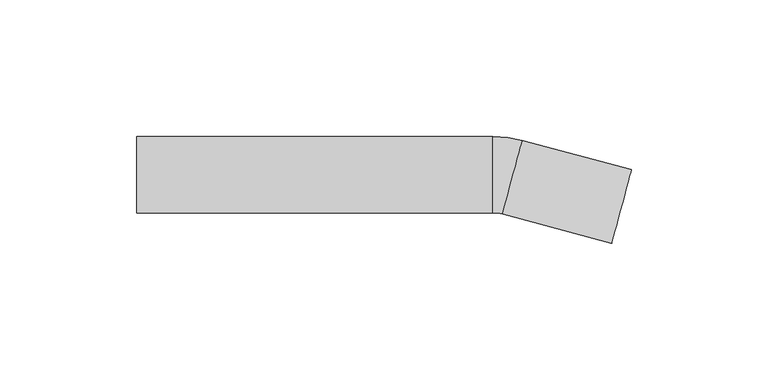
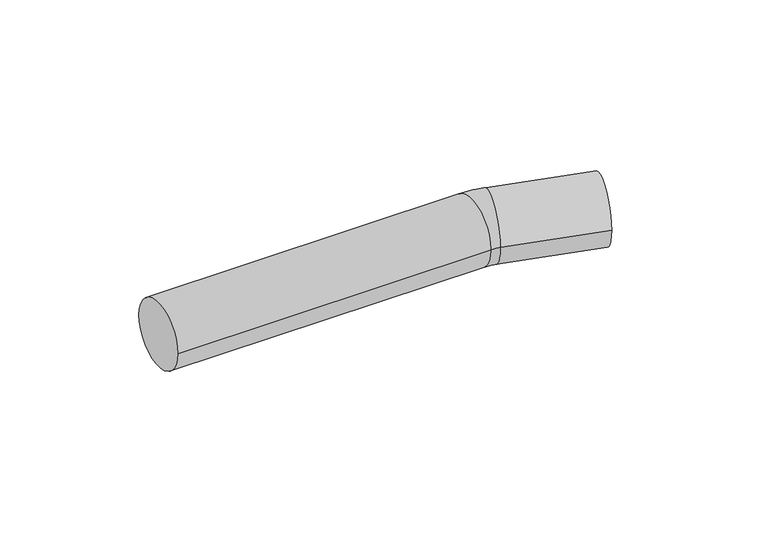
"""IFC4 building model written with IfcOpenShell, lengths in millimetres: pipe fitting geometry, KAN-therm Inox łuk 15 : KAN-therm Inox łuk 15."""

from ifc_helpers import new_model, si_unit, point, frame, origin, place, context, project, spatial, circle_curve, ellipse_curve, trimmed, source, transform, mapped, element, save
from ifc_brep_helpers import plane_surface, cylinder_surface, revolved_surface, advanced_brep


def pipe_fitting_2177f3ef(model_context):
    return source(origin(), model_context, "Body", "AdvancedBrep", [
        advanced_brep(
        [(181.0901288, 1.8761045, 0.0), (173.8431956, -25.1698186, 0.0), (141.18413, 12.5688847, 0.0), (133.9371967, -14.4770384, 0.0), (130.3137301, -14.0, 0.0), (130.3137301, 14.0, 0.0), (0.0, 14.0, 0.0), (0.0, -14.0, 0.0)],
        [
            (0, 1, circle_curve(frame((177.4666622, -11.646857, 0.0), z_axis=(0.9659258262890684, -0.25881904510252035, 0.0), x_axis=(-0.25881904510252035, -0.9659258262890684, 0.0)), 14.0)),
            (1, 0, circle_curve(frame((177.4666622, -11.646857, 0.0), z_axis=(0.9659258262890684, -0.25881904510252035, 0.0), x_axis=(-0.25881904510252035, -0.9659258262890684, 0.0)), 14.0)),
            (0, 2),
            (2, 3, circle_curve(frame((137.5606633, -0.9540769, 0.0), z_axis=(0.9659258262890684, -0.25881904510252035, 0.0), x_axis=(-0.25881904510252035, -0.9659258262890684, 0.0)), 14.0)),
            (3, 1),
            (3, 2, circle_curve(frame((137.5606633, -0.9540769, 0.0), z_axis=(0.9659258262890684, -0.25881904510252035, 0.0), x_axis=(-0.25881904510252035, -0.9659258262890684, 0.0)), 14.0)),
            (4, 3, circle_curve(frame((130.3137301, -28.0, 0.0), z_axis=(0.0, 0.0, -1.0), x_axis=(0.2588190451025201, 0.9659258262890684, 0.0)), 14.0)),
            (2, 5, circle_curve(frame((130.3137301, -28.0, 0.0), z_axis=(0.0, 0.0, 1.0), x_axis=(0.2588190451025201, 0.9659258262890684, 0.0)), 42.0)),
            (5, 4, circle_curve(frame((130.3137301, 0.0, 0.0), z_axis=(1.0, 0.0, 0.0), x_axis=(0.0, -1.0, 0.0)), 14.0)),
            (4, 5, circle_curve(frame((130.3137301, 0.0, 0.0), z_axis=(1.0, 0.0, 0.0), x_axis=(0.0, -1.0, 0.0)), 14.0)),
            (6, 7, circle_curve(frame((0.0, 0.0, 0.0), z_axis=(-1.0, 0.0, 0.0), x_axis=(0.0, -1.0, 0.0)), 14.0)),
            (7, 6, circle_curve(frame((0.0, 0.0, 0.0), z_axis=(-1.0, 0.0, 0.0), x_axis=(0.0, -1.0, 0.0)), 14.0)),
            (5, 6),
            (7, 4),
        ],
        [
            plane_surface(frame((177.4666622, -11.646857, 0.0), z_axis=(0.9659258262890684, -0.25881904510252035, 0.0), x_axis=(0.0, 0.0, 1.0))),
            cylinder_surface(frame((177.4666622, -11.646857, 0.0), z_axis=(0.9659258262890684, -0.25881904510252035, 0.0), x_axis=(-0.25881904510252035, -0.9659258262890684, 0.0)), 14.0),
            revolved_surface(trimmed(ellipse_curve(frame((137.5606633, -0.9540769, 0.0), z_axis=(0.9659258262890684, -0.2588190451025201, 0.0), x_axis=(-0.2588190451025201, -0.9659258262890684, 0.0)), 14.0, 14.0), [point((141.18413, 12.5688847, 0.0))], [point((133.9371967, -14.4770384, 0.0))], True, "CARTESIAN"), (130.3137301, -28.0, 0.0), (0.0, 0.0, 1.0)),
            revolved_surface(trimmed(ellipse_curve(frame((137.5606633, -0.9540769, 0.0), z_axis=(0.9659258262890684, -0.2588190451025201, 0.0), x_axis=(-0.2588190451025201, -0.9659258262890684, 0.0)), 14.0, 14.0), [point((133.9371967, -14.4770384, 0.0))], [point((141.18413, 12.5688847, 0.0))], True, "CARTESIAN"), (130.3137301, -28.0, 0.0), (0.0, 0.0, 1.0)),
            plane_surface(frame((0.0, 0.0, 0.0), z_axis=(-1.0, 0.0, 0.0), x_axis=(0.0, 0.0, 1.0))),
            cylinder_surface(frame((130.3137301, 0.0, 0.0), z_axis=(1.0, 0.0, 0.0), x_axis=(0.0, -1.0, 0.0)), 14.0),
        ],
        [
            (0, [[1, 2]]),
            (1, [[-1, 3, 4, 5]]),
            (1, [[-2, -5, 6, -3]]),
            (2, [[7, -4, 8, 9]]),
            (3, [[-8, -6, -7, 10]]),
            (4, [[11, 12]]),
            (5, [[-9, 13, -12, 14]]),
            (5, [[-10, -14, -11, -13]]),
        ],
    ),
    ])


if __name__ == "__main__":
    model = new_model("IFC4")
    model_context = context("Model", 3, world=origin())
    ifc_project = project(units=[si_unit("LENGTHUNIT", "METRE", prefix="MILLI")], contexts=[model_context])
    site = spatial("IfcSite", under=ifc_project)
    building = spatial("IfcBuilding", under=site)
    placement = place(None, origin())
    pipe_fitting_shape = pipe_fitting_2177f3ef(model_context)
    element("IfcPipeFitting", 1, ObjectType="KAN-therm Inox łuk 15 : KAN-therm Inox łuk 15", at=placement, inside=building, context=model_context, shape_type="MappedRepresentation", body=[
        mapped(pipe_fitting_shape, transform((0.0, 0.0, 0.0), x_axis=(1.0, 0.0, 0.0), y_axis=(0.0, 1.0, 0.0), z_axis=(0.0, 0.0, 1.0))),
    ])
    save(model, "model.ifc")
